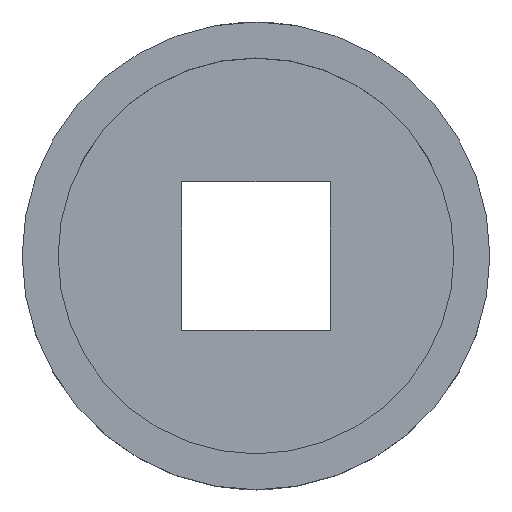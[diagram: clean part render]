
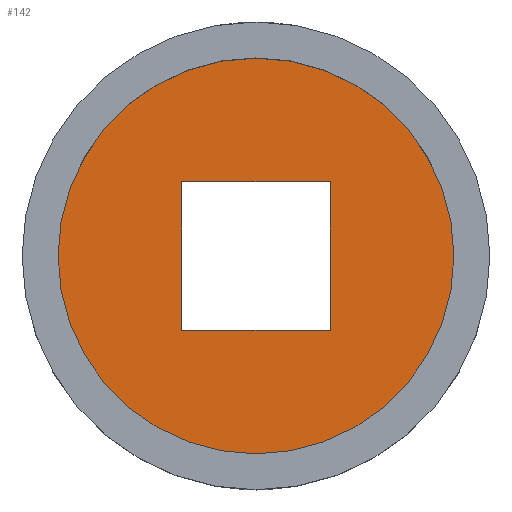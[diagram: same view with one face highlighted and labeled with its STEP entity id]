
A CAD part, top view. The second image highlights one B-rep face of the part: STEP entity #142.
In plain terms, the highlighted planar face has unit normal (0, 0, 1).
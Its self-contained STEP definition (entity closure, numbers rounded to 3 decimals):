
#142 = ADVANCED_FACE( '', ( #297, #298 ), #299, .F. );
#297 = FACE_OUTER_BOUND( '', #444, .T. );
#298 = FACE_BOUND( '', #445, .T. );
#299 = PLANE( '', #446 );
#444 = EDGE_LOOP( '', ( #766 ) );
#445 = EDGE_LOOP( '', ( #767, #768, #769, #770 ) );
#446 = AXIS2_PLACEMENT_3D( '', #771, #772, #773 );
#766 = ORIENTED_EDGE( '', *, *, #811, .T. );
#767 = ORIENTED_EDGE( '', *, *, #808, .T. );
#768 = ORIENTED_EDGE( '', *, *, #816, .T. );
#769 = ORIENTED_EDGE( '', *, *, #875, .T. );
#770 = ORIENTED_EDGE( '', *, *, #887, .T. );
#771 = CARTESIAN_POINT( '', ( 0., 0., 6. ) );
#772 = DIRECTION( '', ( 0., 0., -1. ) );
#773 = DIRECTION( '', ( -1., 0., 0. ) );
#808 = EDGE_CURVE( '', #957, #955, #958, .T. );
#811 = EDGE_CURVE( '', #961, #961, #962, .T. );
#816 = EDGE_CURVE( '', #955, #968, #970, .T. );
#875 = EDGE_CURVE( '', #968, #1053, #1055, .T. );
#887 = EDGE_CURVE( '', #1053, #957, #1068, .T. );
#955 = VERTEX_POINT( '', #1206 );
#957 = VERTEX_POINT( '', #1209 );
#958 = LINE( '', #1210, #1211 );
#961 = VERTEX_POINT( '', #1215 );
#962 = CIRCLE( '', #1216, 12.271 );
#968 = VERTEX_POINT( '', #1223 );
#970 = LINE( '', #1226, #1227 );
#1053 = VERTEX_POINT( '', #1347 );
#1055 = LINE( '', #1350, #1351 );
#1068 = LINE( '', #1394, #1395 );
#1206 = CARTESIAN_POINT( '', ( 4.6, 4.6, 6. ) );
#1209 = CARTESIAN_POINT( '', ( -4.6, 4.6, 6. ) );
#1210 = CARTESIAN_POINT( '', ( -4.6, 4.6, 6. ) );
#1211 = VECTOR( '', #1470, 1000. );
#1215 = CARTESIAN_POINT( '', ( 0., -12.271, 6. ) );
#1216 = AXIS2_PLACEMENT_3D( '', #1472, #1473, #1474 );
#1223 = CARTESIAN_POINT( '', ( 4.6, -4.6, 6. ) );
#1226 = CARTESIAN_POINT( '', ( 4.6, 4.6, 6. ) );
#1227 = VECTOR( '', #1480, 1000. );
#1347 = CARTESIAN_POINT( '', ( -4.6, -4.6, 6. ) );
#1350 = CARTESIAN_POINT( '', ( 4.6, -4.6, 6. ) );
#1351 = VECTOR( '', #1537, 1000. );
#1394 = CARTESIAN_POINT( '', ( -4.6, -4.6, 6. ) );
#1395 = VECTOR( '', #1541, 1000. );
#1470 = DIRECTION( '', ( 1., 0., 0. ) );
#1472 = CARTESIAN_POINT( '', ( 0., 0., 6. ) );
#1473 = DIRECTION( '', ( 0., 0., 1. ) );
#1474 = DIRECTION( '', ( 0., -1., 0. ) );
#1480 = DIRECTION( '', ( 0., -1., 0. ) );
#1537 = DIRECTION( '', ( -1., 0., 0. ) );
#1541 = DIRECTION( '', ( 0., 1., 0. ) );
